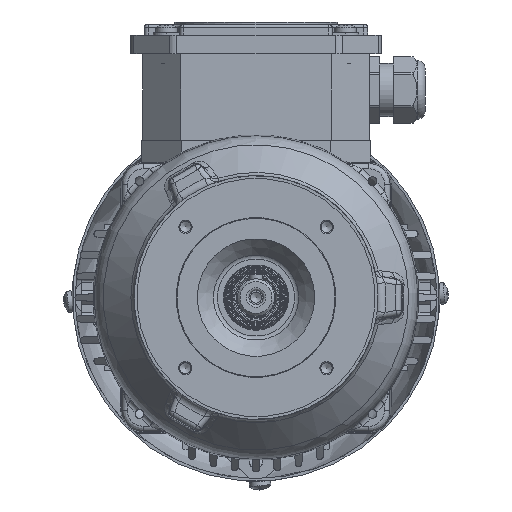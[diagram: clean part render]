
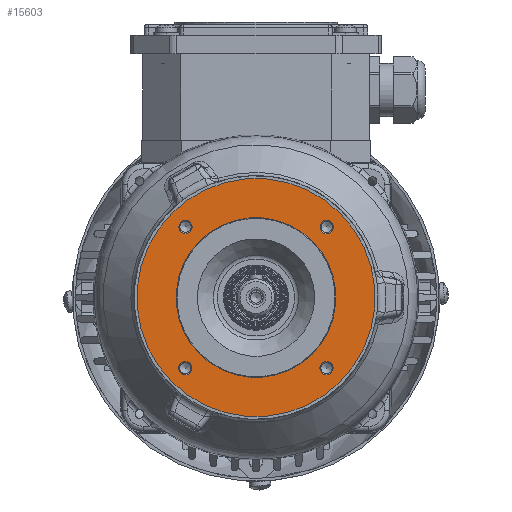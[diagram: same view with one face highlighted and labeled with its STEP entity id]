
A CAD part, front view. The second image highlights one B-rep face of the part: STEP entity #15603.
In plain terms, the highlighted planar face has unit normal (0, -1, 0).
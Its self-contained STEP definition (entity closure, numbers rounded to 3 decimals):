
#13189=PLANE('',#52979);
#15603=ADVANCED_FACE('',(#18384,#18385,#18386,#18387,#18388,#18389),#13189,
 .T.);
#18384=FACE_BOUND('',#20118,.T.);
#18385=FACE_BOUND('',#20119,.T.);
#18386=FACE_BOUND('',#20120,.T.);
#18387=FACE_BOUND('',#20121,.T.);
#18388=FACE_BOUND('',#20122,.T.);
#18389=FACE_BOUND('',#20123,.T.);
#20118=EDGE_LOOP('',(#26714));
#20119=EDGE_LOOP('',(#26715));
#20120=EDGE_LOOP('',(#26716));
#20121=EDGE_LOOP('',(#26717));
#20122=EDGE_LOOP('',(#26718));
#20123=EDGE_LOOP('',(#26719));
#26714=ORIENTED_EDGE('',*,*,#43790,.T.);
#26715=ORIENTED_EDGE('',*,*,#43791,.T.);
#26716=ORIENTED_EDGE('',*,*,#43792,.T.);
#26717=ORIENTED_EDGE('',*,*,#43793,.T.);
#26718=ORIENTED_EDGE('',*,*,#43794,.T.);
#26719=ORIENTED_EDGE('',*,*,#43795,.T.);
#38402=VERTEX_POINT('',#78350);
#38403=VERTEX_POINT('',#78352);
#38404=VERTEX_POINT('',#78354);
#38405=VERTEX_POINT('',#78356);
#38406=VERTEX_POINT('',#78358);
#38407=VERTEX_POINT('',#78360);
#43790=EDGE_CURVE('',#38402,#38402,#49625,.T.);
#43791=EDGE_CURVE('',#38403,#38403,#49626,.T.);
#43792=EDGE_CURVE('',#38404,#38404,#49627,.T.);
#43793=EDGE_CURVE('',#38405,#38405,#49628,.T.);
#43794=EDGE_CURVE('',#38406,#38406,#49629,.T.);
#43795=EDGE_CURVE('',#38407,#38407,#49630,.T.);
#49625=CIRCLE('',#52973,2.5);
#49626=CIRCLE('',#52974,2.5);
#49627=CIRCLE('',#52975,2.5);
#49628=CIRCLE('',#52976,2.5);
#49629=CIRCLE('',#52977,30.);
#49630=CIRCLE('',#52978,44.75);
#52973=AXIS2_PLACEMENT_3D('',#78349,#60447,#60448);
#52974=AXIS2_PLACEMENT_3D('',#78351,#60449,#60450);
#52975=AXIS2_PLACEMENT_3D('',#78353,#60451,#60452);
#52976=AXIS2_PLACEMENT_3D('',#78355,#60453,#60454);
#52977=AXIS2_PLACEMENT_3D('',#78357,#60455,#60456);
#52978=AXIS2_PLACEMENT_3D('',#78359,#60457,#60458);
#52979=AXIS2_PLACEMENT_3D('',#78361,#60459,#60460);
#60447=DIRECTION('',(0.,1.,0.));
#60448=DIRECTION('',(-0.707,0.,0.708));
#60449=DIRECTION('',(0.,1.,0.));
#60450=DIRECTION('',(-0.707,0.,0.708));
#60451=DIRECTION('',(0.,1.,0.));
#60452=DIRECTION('',(-0.707,0.,0.708));
#60453=DIRECTION('',(0.,1.,0.));
#60454=DIRECTION('',(-0.707,0.,0.708));
#60455=DIRECTION('',(0.,1.,0.));
#60456=DIRECTION('',(0.707,0.,-0.708));
#60457=DIRECTION('',(0.,-1.,0.));
#60458=DIRECTION('',(0.707,0.,-0.708));
#60459=DIRECTION('',(0.,-1.,0.));
#60460=DIRECTION('',(-0.707,0.,0.708));
#78349=CARTESIAN_POINT('',(-26.5,-47.,26.533));
#78350=CARTESIAN_POINT('',(-28.267,-47.,28.302));
#78351=CARTESIAN_POINT('',(-26.533,-47.,-26.5));
#78352=CARTESIAN_POINT('',(-28.299,-47.,-24.731));
#78353=CARTESIAN_POINT('',(26.5,-47.,-26.533));
#78354=CARTESIAN_POINT('',(24.734,-47.,-24.764));
#78355=CARTESIAN_POINT('',(26.533,-47.,26.5));
#78356=CARTESIAN_POINT('',(24.766,-47.,28.269));
#78357=CARTESIAN_POINT('',(0.,-47.,0.));
#78358=CARTESIAN_POINT('',(21.2,-47.,-21.226));
#78359=CARTESIAN_POINT('',(0.,-47.,0.));
#78360=CARTESIAN_POINT('',(31.624,-47.,-31.662));
#78361=CARTESIAN_POINT('',(0.,-47.,0.));
